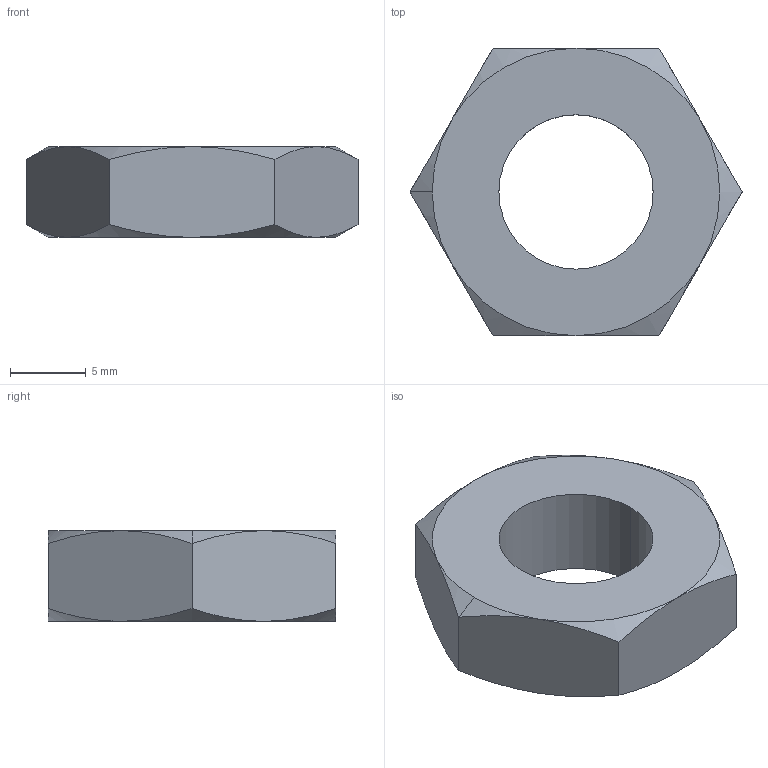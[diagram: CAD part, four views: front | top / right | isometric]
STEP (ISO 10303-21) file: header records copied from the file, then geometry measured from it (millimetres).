
FILE_DESCRIPTION (( 'STEP AP203' ), '1' );
FILE_NAME ('32700.W0516.step', '2016-02-10T17:13:55', ( 'User' ), ( '' ), 'SwSTEP 2.0', 'SolidWorks 2009', '' );
FILE_SCHEMA (( 'CONFIG_CONTROL_DESIGN' ));
Length unit declared in the file: millimetre
Products named in the file (1): 32700.W0516
Bounding box: 21.94 x 19 x 6 mm (x, y, z)
Volume: 1370.6 mm3; surface area: 1019.7 mm2
Topology: 1 solids, 1 shells, 24 faces, 52 edges, 30 vertices
Faces by surface type: cone 14, plane 8, cylinder 2
Entity records: 827 total; most frequent: CARTESIAN_POINT 259, ORIENTED_EDGE 104, DIRECTION 96, EDGE_CURVE 52, AXIS2_PLACEMENT_3D 43, VERTEX_POINT 30, EDGE_LOOP 26, ADVANCED_FACE 24
